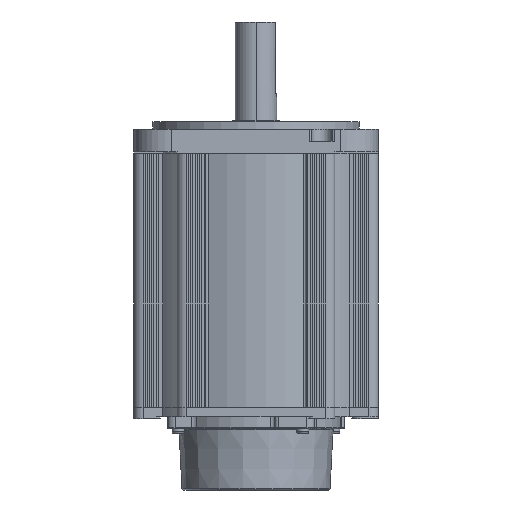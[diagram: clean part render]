
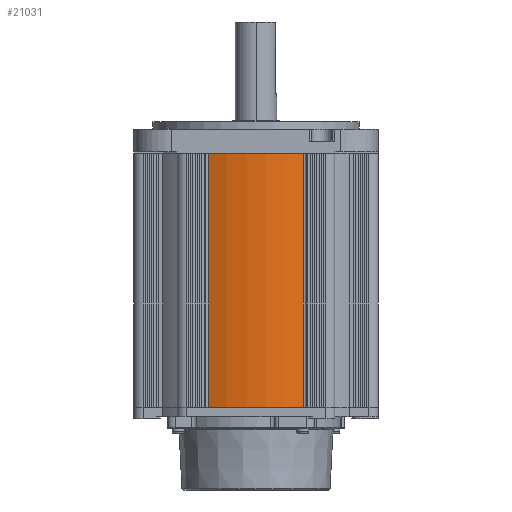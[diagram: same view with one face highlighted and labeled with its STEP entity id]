
A CAD part, front view. The second image highlights one B-rep face of the part: STEP entity #21031.
In plain terms, the highlighted cylindrical face has radius 65 mm (diameter 130 mm), a partial arc.
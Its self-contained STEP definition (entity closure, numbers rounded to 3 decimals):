
#1550 = VERTEX_POINT ( 'NONE', #26755 ) ;
#4093 = ORIENTED_EDGE ( 'NONE', *, *, #10426, .F. ) ;
#4367 = CARTESIAN_POINT ( 'NONE',  ( 0., 0., 0. ) ) ;
#5768 = DIRECTION ( 'NONE',  ( 0., 0., 1. ) ) ;
#6485 = VERTEX_POINT ( 'NONE', #13017 ) ;
#7977 = DIRECTION ( 'NONE',  ( 1., 0., 0. ) ) ;
#10426 = EDGE_CURVE ( 'NONE', #14917, #6485, #12860, .T. ) ;
#12343 = EDGE_CURVE ( 'NONE', #1550, #6485, #25261, .T. ) ;
#12860 = LINE ( 'NONE', #29250, #32428 ) ;
#12901 = EDGE_CURVE ( 'NONE', #32436, #1550, #30746, .T. ) ;
#13017 = CARTESIAN_POINT ( 'NONE',  ( 25.22, -59.908, 0. ) ) ;
#14664 = AXIS2_PLACEMENT_3D ( 'NONE', #20766, #5768, #7977 ) ;
#14917 = VERTEX_POINT ( 'NONE', #32669 ) ;
#15124 = FACE_OUTER_BOUND ( 'NONE', #16590, .T. ) ;
#16230 = VECTOR ( 'NONE', #24842, 1000. ) ;
#16590 = EDGE_LOOP ( 'NONE', ( #20917, #4093, #25096, #17838 ) ) ;
#17838 = ORIENTED_EDGE ( 'NONE', *, *, #12901, .T. ) ;
#18267 = CYLINDRICAL_SURFACE ( 'NONE', #21575, 65. ) ;
#19139 = CARTESIAN_POINT ( 'NONE',  ( -25.22, -59.908, 135. ) ) ;
#19751 = DIRECTION ( 'NONE',  ( 1., 0., 0. ) ) ;
#19849 = DIRECTION ( 'NONE',  ( 0., 0., 1. ) ) ;
#20766 = CARTESIAN_POINT ( 'NONE',  ( 0., 0., 135. ) ) ;
#20917 = ORIENTED_EDGE ( 'NONE', *, *, #12343, .T. ) ;
#21031 = ADVANCED_FACE ( 'NONE', ( #15124 ), #18267, .T. ) ;
#21109 = DIRECTION ( 'NONE',  ( 0., 0., -1. ) ) ;
#21575 = AXIS2_PLACEMENT_3D ( 'NONE', #28477, #21109, #25915 ) ;
#22573 = CARTESIAN_POINT ( 'NONE',  ( -25.22, -59.908, 135. ) ) ;
#24842 = DIRECTION ( 'NONE',  ( 0., 0., -1. ) ) ;
#25096 = ORIENTED_EDGE ( 'NONE', *, *, #31423, .F. ) ;
#25261 = CIRCLE ( 'NONE', #25958, 65. ) ;
#25915 = DIRECTION ( 'NONE',  ( -1., 0., 0. ) ) ;
#25958 = AXIS2_PLACEMENT_3D ( 'NONE', #4367, #19849, #19751 ) ;
#26755 = CARTESIAN_POINT ( 'NONE',  ( -25.22, -59.908, 0. ) ) ;
#28477 = CARTESIAN_POINT ( 'NONE',  ( 0., 0., 135. ) ) ;
#28822 = CIRCLE ( 'NONE', #14664, 65. ) ;
#29250 = CARTESIAN_POINT ( 'NONE',  ( 25.22, -59.908, 135. ) ) ;
#30746 = LINE ( 'NONE', #19139, #16230 ) ;
#31423 = EDGE_CURVE ( 'NONE', #32436, #14917, #28822, .T. ) ;
#32378 = DIRECTION ( 'NONE',  ( 0., 0., -1. ) ) ;
#32428 = VECTOR ( 'NONE', #32378, 1000. ) ;
#32436 = VERTEX_POINT ( 'NONE', #22573 ) ;
#32669 = CARTESIAN_POINT ( 'NONE',  ( 25.22, -59.908, 135. ) ) ;
